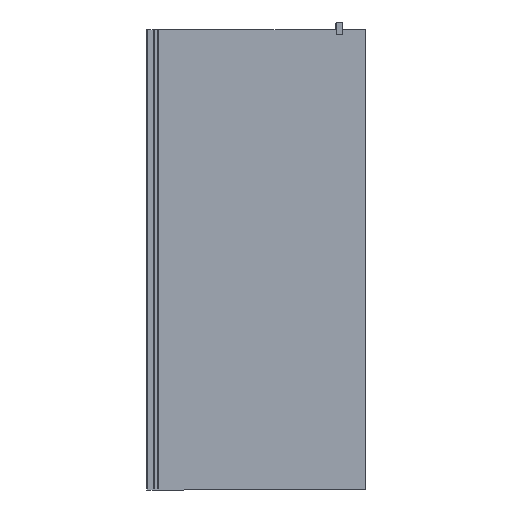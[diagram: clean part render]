
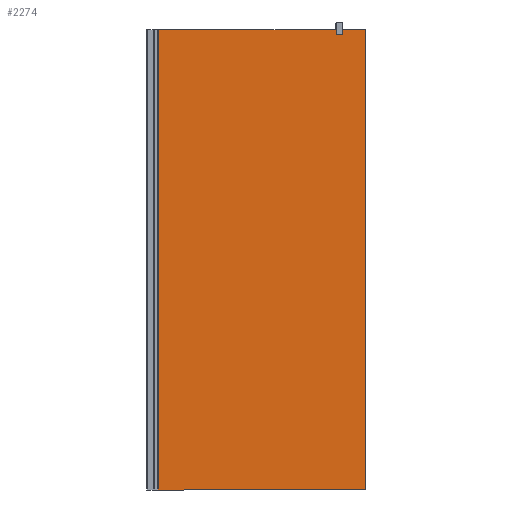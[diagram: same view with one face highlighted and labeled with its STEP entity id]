
A CAD part, front view. The second image highlights one B-rep face of the part: STEP entity #2274.
In plain terms, the highlighted planar face has unit normal (0, -1, 0).
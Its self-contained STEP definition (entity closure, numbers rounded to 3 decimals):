
#144=FACE_OUTER_BOUND($,#263,.T.);
#263=EDGE_LOOP($,(#1693,#1694,#1695,#1696,#1697,#1698));
#431=LINE($,#3459,#645);
#438=LINE($,#3477,#652);
#447=LINE($,#3502,#661);
#451=LINE($,#3511,#665);
#453=LINE($,#3515,#667);
#454=LINE($,#3516,#668);
#645=VECTOR($,#2811,20.);
#652=VECTOR($,#2826,2000.);
#661=VECTOR($,#2855,900.);
#665=VECTOR($,#2863,1.);
#667=VECTOR($,#2867,2001.);
#668=VECTOR($,#2868,920.);
#962=VERTEX_POINT($,#3456);
#963=VERTEX_POINT($,#3458);
#970=VERTEX_POINT($,#3476);
#976=VERTEX_POINT($,#3500);
#979=VERTEX_POINT($,#3510);
#980=VERTEX_POINT($,#3514);
#1213=EDGE_CURVE($,#963,#962,#431,.T.);
#1222=EDGE_CURVE($,#962,#970,#438,.T.);
#1235=EDGE_CURVE($,#976,#970,#447,.T.);
#1239=EDGE_CURVE($,#979,#963,#451,.T.);
#1241=EDGE_CURVE($,#980,#976,#453,.T.);
#1242=EDGE_CURVE($,#980,#979,#454,.T.);
#1693=ORIENTED_EDGE($,*,*,#1222,.T.);
#1694=ORIENTED_EDGE($,*,*,#1235,.F.);
#1695=ORIENTED_EDGE($,*,*,#1241,.F.);
#1696=ORIENTED_EDGE($,*,*,#1242,.T.);
#1697=ORIENTED_EDGE($,*,*,#1239,.T.);
#1698=ORIENTED_EDGE($,*,*,#1213,.T.);
#2061=PLANE($,#2447);
#2274=ADVANCED_FACE($,(#144),#2061,.T.);
#2447=AXIS2_PLACEMENT_3D($,#3513,#2865,#2866);
#2811=DIRECTION($,(1.,0.,0.));
#2826=DIRECTION($,(0.,0.,-1.));
#2855=DIRECTION($,(-1.,0.,0.));
#2863=DIRECTION($,(0.,0.,-1.));
#2865=DIRECTION('center_axis',(0.,-1.,0.));
#2866=DIRECTION('ref_axis',(-1.,0.,0.));
#2867=DIRECTION($,(0.,0.,-1.));
#2868=DIRECTION($,(-1.,0.,0.));
#3456=CARTESIAN_POINT('',(416.019,-34.044,1484.944));
#3458=CARTESIAN_POINT('',(396.019,-34.044,1484.944));
#3459=CARTESIAN_POINT($,(855.154,-34.044,1484.944));
#3476=CARTESIAN_POINT('',(416.019,-34.044,-515.056));
#3477=CARTESIAN_POINT($,(416.019,-34.044,485.444));
#3500=CARTESIAN_POINT('',(1316.019,-34.044,-515.056));
#3502=CARTESIAN_POINT($,(1316.019,-34.044,-515.056));
#3510=CARTESIAN_POINT('',(396.019,-34.044,1485.944));
#3511=CARTESIAN_POINT($,(396.019,-34.044,1485.944));
#3513=CARTESIAN_POINT('Origin',(1316.019,-34.044,1485.944));
#3514=CARTESIAN_POINT('',(1316.019,-34.044,1485.944));
#3515=CARTESIAN_POINT($,(1316.019,-34.044,1485.944));
#3516=CARTESIAN_POINT($,(1316.019,-34.044,1485.944));
